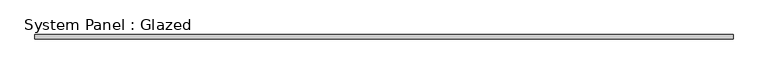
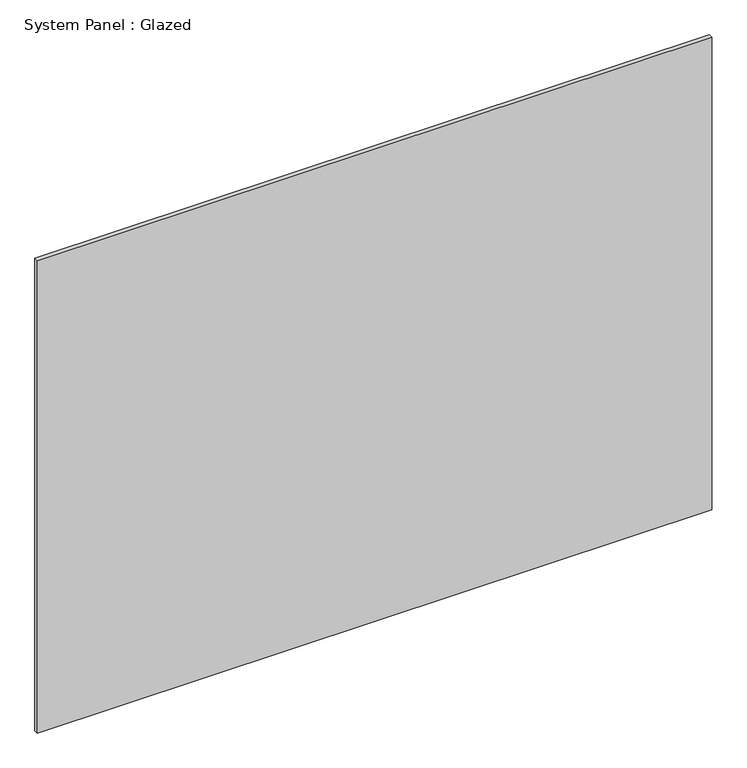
"""IFC4 building model written with IfcOpenShell, lengths in millimetres: plate geometry, System Panel : Glazed."""

from ifc_helpers import new_model, si_unit, origin, origin_with_axes, place, context, project, spatial, polyline, outline, extrude, source, transform, mapped, element, save


def system_panel_glazed_bcfc8d05(model_context):
    return source(origin(), model_context, "Body", "SweptSolid", [
        extrude(outline(polyline([(2092.5, 24.5), (-2092.5, 24.5), (-2092.5, 49.5), (2092.5, 49.5), (2092.5, 24.5)])), origin_with_axes(), (0.0, 0.0, 1.0), 3100.0),
    ])


if __name__ == "__main__":
    model = new_model("IFC4")
    model_context = context("Model", 3, world=origin())
    ifc_project = project(units=[si_unit("LENGTHUNIT", "METRE", prefix="MILLI")], contexts=[model_context])
    site = spatial("IfcSite", under=ifc_project)
    building = spatial("IfcBuilding", under=site)
    placement = place(None, origin())
    system_panel_glazed_shape = system_panel_glazed_bcfc8d05(model_context)
    element("IfcPlate", 1, ObjectType="System Panel : Glazed", at=placement, inside=building, context=model_context, shape_type="MappedRepresentation", body=[
        mapped(system_panel_glazed_shape, transform((0.0, 0.0, 0.0), x_axis=(1.0, 0.0, 0.0), y_axis=(0.0, 1.0, 0.0), z_axis=(0.0, 0.0, 1.0))),
    ])
    save(model, "model.ifc")
